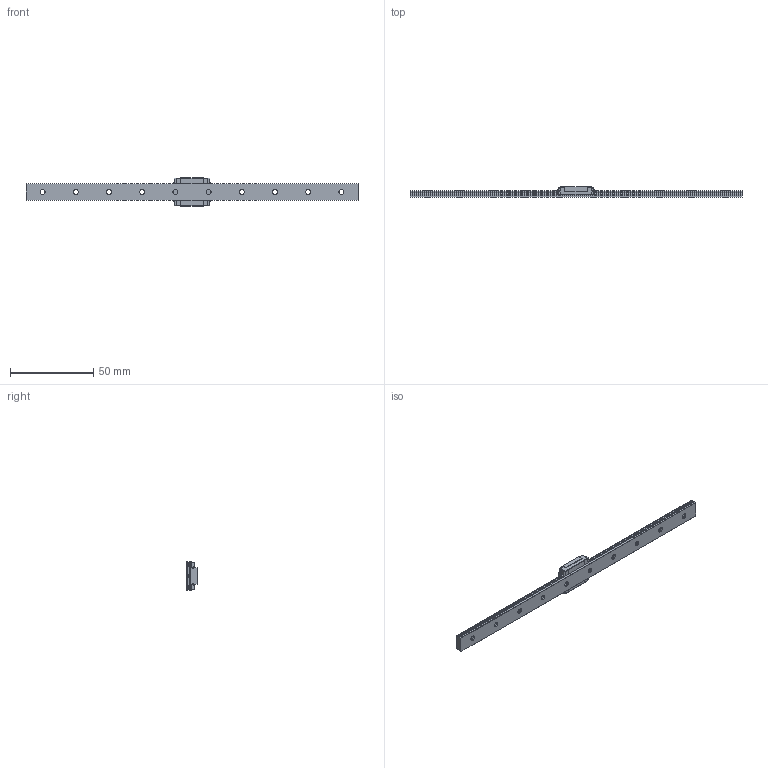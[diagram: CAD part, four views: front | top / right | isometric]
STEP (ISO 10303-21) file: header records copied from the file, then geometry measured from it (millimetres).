
FILE_DESCRIPTION( ( '' ), '1' );
FILE_NAME( 'C:/Users/v3-771-32344/Documents/Website 2016/STEP/SRS5WM1UU200100 88.95000.stp', '2016-11-10T13:11:20', ( '' ), ( '' ), ' ', ' ', ' ' );
FILE_SCHEMA( ( 'CONFIG_CONTROL_DESIGN' ) );
Length unit declared in the file: millimetre
Products named in the file (2): 1; 2
Bounding box: 200 x 6.5 x 17 mm (x, y, z)
Volume: 8193.6 mm3; surface area: 7279.4 mm2
Topology: 2 solids, 2 shells, 266 faces, 722 edges, 480 vertices
Faces by surface type: plane 164, cylinder 86, cone 8, torus 8
Entity records: 8538 total; most frequent: CARTESIAN_POINT 1470, DIRECTION 1466, ORIENTED_EDGE 1444, EDGE_CURVE 722, LINE 514, VECTOR 514, VERTEX_POINT 480, AXIS2_PLACEMENT_3D 476
